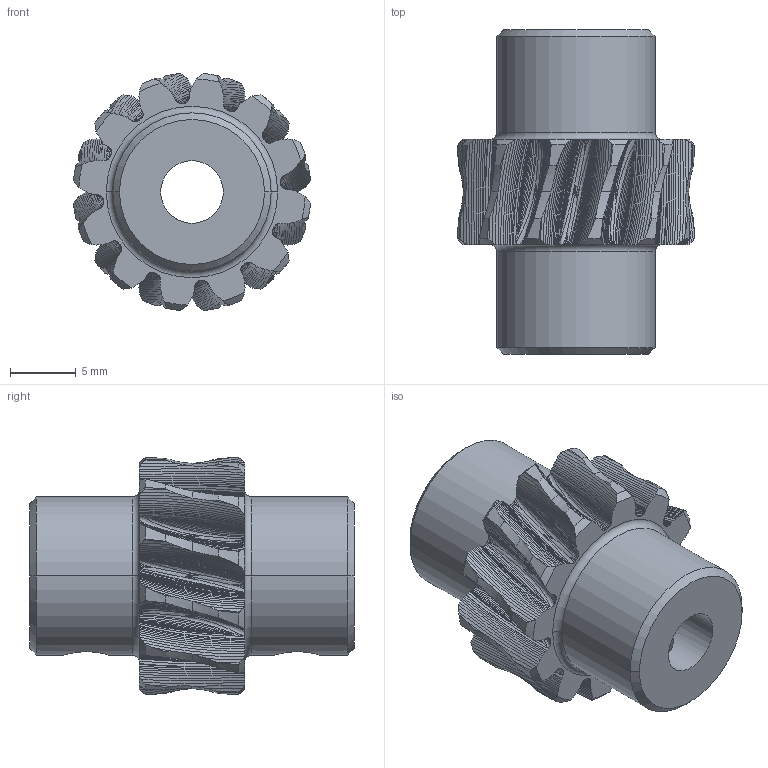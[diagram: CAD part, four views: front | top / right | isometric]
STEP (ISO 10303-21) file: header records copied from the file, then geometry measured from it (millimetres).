
FILE_DESCRIPTION(/* description */ (''),/* implementation_level */ '2;1');
FILE_NAME(/* name */ 'D:\FIRST\FTC KOP 2017\FTC 2017 KOP\Tetrix STEP\Miscellaneous\Tetrix_39375_Gear.ipt.step',/* time_stamp */ '2017-01-03T09:05:26-08:00',/* author */ ('Autodesk Inc.'),/* organization */ ('Autodesk Inc.'),/* preprocessor_version */ 'ST-DEVELOPER v16.5',/* originating_system */ 'Autodesk Inventor 2017',/* authorisation */ '');
FILE_SCHEMA (('AUTOMOTIVE_DESIGN { 1 0 10303 214 3 1 1 }'));
Products named in the file (1): 739375
Bounding box: 17.98 x 24.6 x 17.98 mm (x, y, z)
Volume: 2831.8 mm3; surface area: 2096.8 mm2
Topology: 1 solids, 1 shells, 1128 faces, 3362 edges, 2238 vertices
Faces by surface type: bspline 960, cylinder 106, cone 30, torus 28, plane 4
Entity records: 86049 total; most frequent: CARTESIAN_POINT 63877, ORIENTED_EDGE 6724, EDGE_CURVE 3362, VERTEX_POINT 2238, B_SPLINE_CURVE_WITH_KNOTS 2216, DIRECTION 1942, EDGE_LOOP 1136, FACE_OUTER_BOUND 1128
